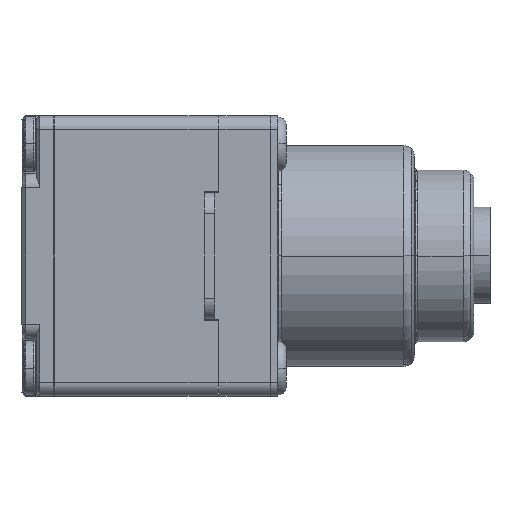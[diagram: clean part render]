
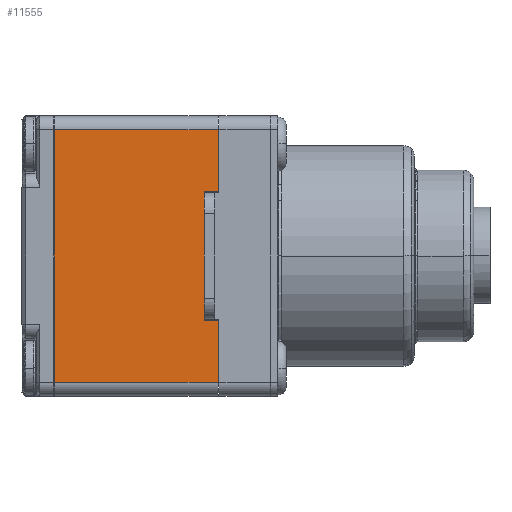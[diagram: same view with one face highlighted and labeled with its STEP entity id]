
A CAD part, left-side view. The second image highlights one B-rep face of the part: STEP entity #11555.
In plain terms, the highlighted planar face has unit normal (-1, 0, 0).
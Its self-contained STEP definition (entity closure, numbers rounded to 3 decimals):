
#11071=DIRECTION('',(0.,1.,0.));
#11072=VECTOR('',#11071,23.4);
#11073=CARTESIAN_POINT('',(-21.,-0.5,-18.));
#11074=LINE('',#11073,#11072);
#11216=DIRECTION('',(0.,-1.,0.));
#11217=VECTOR('',#11216,23.4);
#11218=CARTESIAN_POINT('',(-21.,22.9,18.));
#11219=LINE('',#11218,#11217);
#11246=DIRECTION('',(0.,0.,1.));
#11247=VECTOR('',#11246,36.);
#11248=CARTESIAN_POINT('',(-21.,22.9,-18.));
#11249=LINE('',#11248,#11247);
#11253=DIRECTION('',(0.,0.,-1.));
#11254=VECTOR('',#11253,8.8);
#11255=CARTESIAN_POINT('',(-21.,-0.5,18.));
#11256=LINE('',#11255,#11254);
#11260=DIRECTION('',(0.,1.,0.));
#11261=VECTOR('',#11260,2.);
#11262=CARTESIAN_POINT('',(-21.,-0.5,9.2));
#11263=LINE('',#11262,#11261);
#11267=DIRECTION('',(0.,0.,-1.));
#11268=VECTOR('',#11267,18.4);
#11269=CARTESIAN_POINT('',(-21.,1.5,9.2));
#11270=LINE('',#11269,#11268);
#11274=DIRECTION('',(0.,-1.,0.));
#11275=VECTOR('',#11274,2.);
#11276=CARTESIAN_POINT('',(-21.,1.5,-9.2));
#11277=LINE('',#11276,#11275);
#11281=DIRECTION('',(0.,0.,-1.));
#11282=VECTOR('',#11281,8.8);
#11283=CARTESIAN_POINT('',(-21.,-0.5,-9.2));
#11284=LINE('',#11283,#11282);
#11292=CARTESIAN_POINT('',(-21.,1.5,-9.2));
#11293=CARTESIAN_POINT('',(-21.,-0.5,-9.2));
#11294=VERTEX_POINT('',#11292);
#11295=VERTEX_POINT('',#11293);
#11296=CARTESIAN_POINT('',(-21.,1.5,9.2));
#11297=VERTEX_POINT('',#11296);
#11300=CARTESIAN_POINT('',(-21.,-0.5,9.2));
#11301=VERTEX_POINT('',#11300);
#11304=CARTESIAN_POINT('',(-21.,-0.5,-18.));
#11305=VERTEX_POINT('',#11304);
#11318=CARTESIAN_POINT('',(-21.,-0.5,18.));
#11319=VERTEX_POINT('',#11318);
#11322=CARTESIAN_POINT('',(-21.,22.9,-18.));
#11323=VERTEX_POINT('',#11322);
#11334=CARTESIAN_POINT('',(-21.,22.9,18.));
#11335=VERTEX_POINT('',#11334);
#11534=CARTESIAN_POINT('',(-21.,23.5,20.));
#11535=DIRECTION('',(-1.,0.,0.));
#11536=DIRECTION('',(0.,0.,-1.));
#11537=AXIS2_PLACEMENT_3D('',#11534,#11535,#11536);
#11538=PLANE('',#11537);
#11539=ORIENTED_EDGE('',*,*,#11345,.T.);
#11541=ORIENTED_EDGE('',*,*,#11540,.T.);
#11542=ORIENTED_EDGE('',*,*,#11512,.T.);
#11544=ORIENTED_EDGE('',*,*,#11543,.T.);
#11546=ORIENTED_EDGE('',*,*,#11545,.T.);
#11548=ORIENTED_EDGE('',*,*,#11547,.T.);
#11550=ORIENTED_EDGE('',*,*,#11549,.T.);
#11552=ORIENTED_EDGE('',*,*,#11551,.T.);
#11553=EDGE_LOOP('',(#11539,#11541,#11542,#11544,#11546,#11548,#11550,#11552));
#11554=FACE_OUTER_BOUND('',#11553,.F.);
#11555=ADVANCED_FACE('',(#11554),#11538,.T.);
#11345=EDGE_CURVE('',#11305,#11323,#11074,.T.);
#11512=EDGE_CURVE('',#11335,#11319,#11219,.T.);
#11540=EDGE_CURVE('',#11323,#11335,#11249,.T.);
#11543=EDGE_CURVE('',#11319,#11301,#11256,.T.);
#11545=EDGE_CURVE('',#11301,#11297,#11263,.T.);
#11547=EDGE_CURVE('',#11297,#11294,#11270,.T.);
#11549=EDGE_CURVE('',#11294,#11295,#11277,.T.);
#11551=EDGE_CURVE('',#11295,#11305,#11284,.T.);
